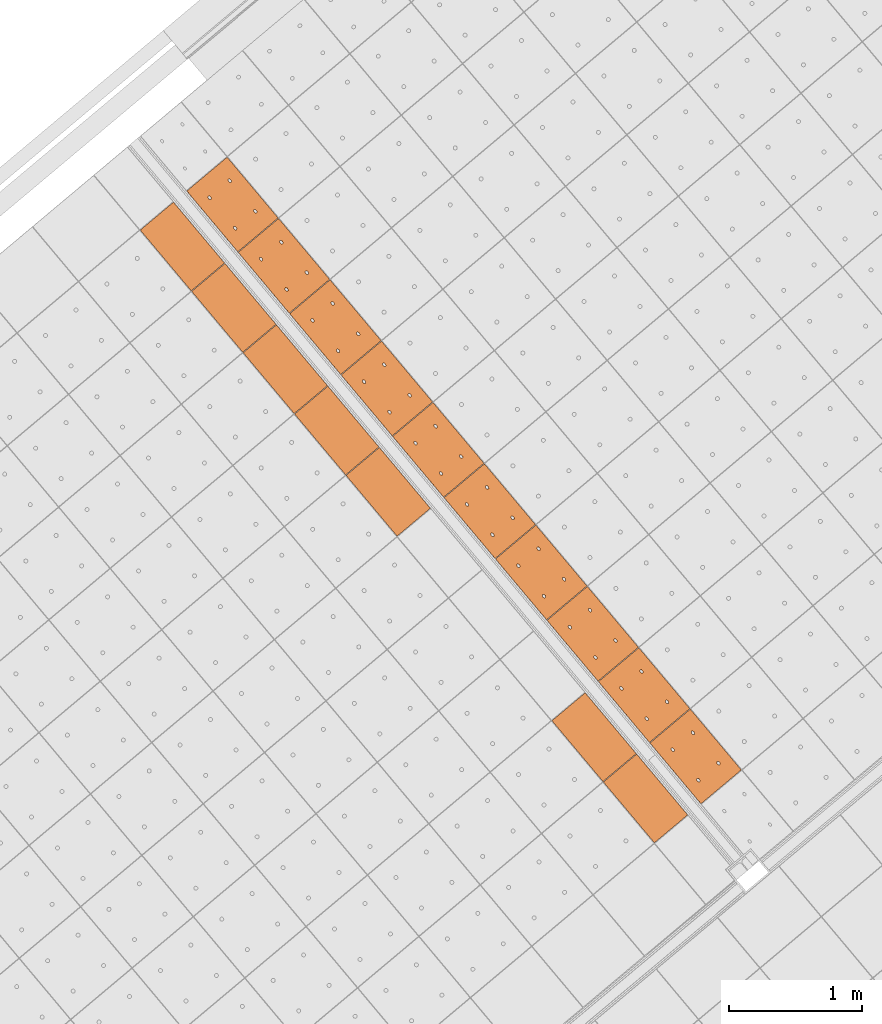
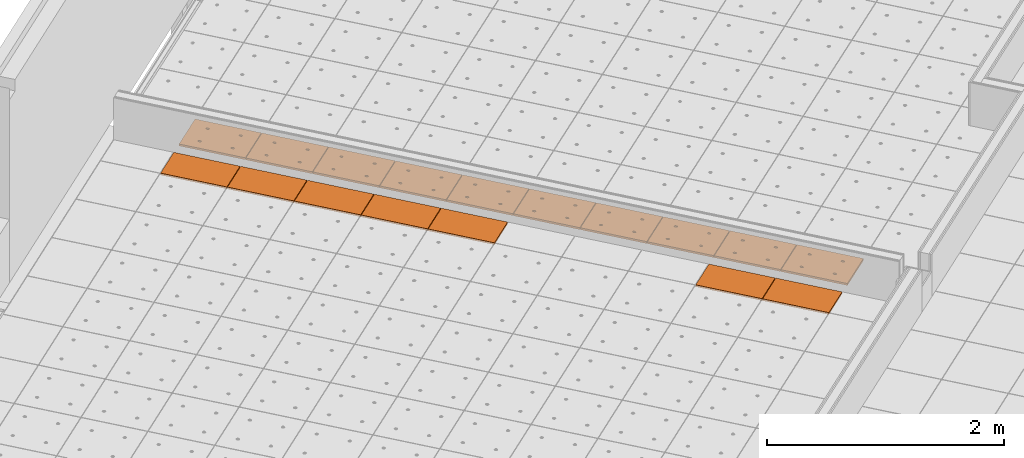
# One storey, part 200 of 338: 17 proxies, 2 elements without a shape of their own.
"""IFC2X3 building model written with IfcOpenShell, lengths in millimetres."""

from ifc_helpers import new_model, entity, si_unit, converted_unit, derived_unit, money_unit, direction, frame, origin_with_axes, place, context, subcontext, project, spatial, faceted_brep, source, transform, mapped, material, type_object, type_shapes, element, aggregate, save


model = new_model("IFC2X3")

# Units and contexts
model_context = context("Model", 3, precision=0.01, world=origin_with_axes(), true_north=direction((0.0, 1.0)))
plan_context = context("Plan", 3, precision=0.01, world=origin_with_axes(), true_north=direction((0.0, 1.0)))
body_context = subcontext(model_context, "Body", "Model", "MODEL_VIEW")
ifc_project = project(units=[si_unit("LENGTHUNIT", "METRE", prefix="MILLI"), si_unit("AREAUNIT", "SQUARE_METRE"), si_unit("VOLUMEUNIT", "CUBIC_METRE"), converted_unit("PLANEANGLEUNIT", "DEGREE", entity("IfcPlaneAngleMeasure", 0.0174532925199), si_unit("PLANEANGLEUNIT", "RADIAN"), dimensions=[0, 0, 0, 0, 0, 0, 0]), money_unit("EUR"), converted_unit("TIMEUNIT", "Year", entity("IfcTimeMeasure", 31556926.0), si_unit("TIMEUNIT", "SECOND"), dimensions=[0, 0, 1, 0, 0, 0, 0]), si_unit("MASSUNIT", "GRAM", prefix="KILO"), si_unit("THERMODYNAMICTEMPERATUREUNIT", "DEGREE_CELSIUS"), si_unit("LUMINOUSINTENSITYUNIT", "LUMEN"), si_unit("ENERGYUNIT", "JOULE", prefix="MEGA"), derived_unit("THERMALCONDUCTANCEUNIT", [(si_unit("POWERUNIT", "WATT"), 1), (si_unit("LENGTHUNIT", "METRE"), -1), (si_unit("THERMODYNAMICTEMPERATUREUNIT", "KELVIN"), -1)]), derived_unit("SPECIFICHEATCAPACITYUNIT", [(si_unit("ENERGYUNIT", "JOULE"), 1), (si_unit("MASSUNIT", "GRAM", prefix="KILO"), -1), (si_unit("THERMODYNAMICTEMPERATUREUNIT", "KELVIN"), -1)]), derived_unit("MASSDENSITYUNIT", [(si_unit("MASSUNIT", "GRAM", prefix="KILO"), 1), (si_unit("VOLUMEUNIT", "CUBIC_METRE"), -1)])], contexts=[model_context, plan_context])

# Site, building, storey
site_placement = place(None, origin_with_axes())
site = spatial("IfcSite", under=ifc_project, at=site_placement, Name="Fortuinstraat Woensdrecht", CompositionType="ELEMENT")
building_placement = place(site_placement, origin_with_axes())
building = spatial("IfcBuilding", under=site, at=building_placement, Name="IKC Fortuna", CompositionType="ELEMENT")
storey_placement = place(building_placement, origin_with_axes())
storey = spatial("IfcBuildingStorey", under=building, at=storey_placement, Name="00 begane grond", CompositionType="ELEMENT", Elevation=0.0)

# Covering, proxies
covering_type = type_object("IfcCoveringType", Name="Curtain Wall Type", PredefinedType="CEILING")
covering_1_placement = place(storey_placement, frame((9775.85169731, -1002.28242867, 4660.0), z_axis=(0.0, 0.0, 1.0), x_axis=(1.0, 0.0, 0.0)))
covering_1 = element("IfcCovering", 1, at=covering_1_placement, inside=storey, type_object=covering_type, Name="45_Plafondafwerking_P01", PredefinedType="CEILING")
ifc_material = material(Name="Gipsplaat")
building_element_proxy_type_1 = type_object("IfcBuildingElementProxyType", Name="330 x 600 x 20", PredefinedType="NOTDEFINED")
shared_shape_1 = source(origin_with_axes(), body_context, "Body", "Brep", [
    faceted_brep([(272.019603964, 2.49999411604, -10.0), (597.499999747, 2.50000859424, -10.0), (597.499999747, 2.50000859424, 10.0), (272.019603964, 2.49999411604, 10.0), (272.019596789, 597.499992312, -10.0), (597.499992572, 597.50000679, -10.0), (597.499992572, 597.50000679, 10.0), (272.019596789, 597.499992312, 10.0)], [[[0, 1, 2, 3]], [[0, 4, 5, 1]], [[1, 5, 6, 2]], [[3, 2, 6, 7]], [[4, 0, 3, 7]], [[5, 4, 7, 6]]]),
])
type_shapes(building_element_proxy_type_1, [shared_shape_1])
proxy_1_placement = place(covering_1_placement, frame((-29.2781042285, 758.677310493, 0.0), z_axis=(0.0, 0.0, 1.0), x_axis=(1.0, 0.0, 0.0)))
proxy_1 = element("IfcBuildingElementProxy", 2, at=proxy_1_placement, type_object=building_element_proxy_type_1, material=ifc_material, Name="__600x618 Rockfon Krios", context=body_context, shape_type="MappedRepresentation", body=[
    mapped(shared_shape_1, transform((140.208918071, 509.271582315, 0.0), x_axis=(-0.766044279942, -0.642787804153, 0.0), y_axis=(0.642787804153, -0.766044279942, 0.0), z_axis=(0.0, 0.0, 1.0))),
])
proxy_2_placement = place(covering_1_placement, frame((-2728.98688167, 3976.06328625, 0.0), z_axis=(0.0, 0.0, 1.0), x_axis=(1.0, 0.0, 0.0)))
proxy_2 = element("IfcBuildingElementProxy", 3, at=proxy_2_placement, type_object=building_element_proxy_type_1, material=ifc_material, Name="__600x623 Rockfon Krios", context=body_context, shape_type="MappedRepresentation", body=[
    mapped(shared_shape_1, transform((140.208918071, 509.271582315, 0.0), x_axis=(-0.766044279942, -0.642787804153, 0.0), y_axis=(0.642787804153, -0.766044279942, 0.0), z_axis=(0.0, 0.0, 1.0))),
])
proxy_3_placement = place(covering_1_placement, frame((-3500.33224665, 4895.31642218, 0.0), z_axis=(0.0, 0.0, 1.0), x_axis=(1.0, 0.0, 0.0)))
proxy_3 = element("IfcBuildingElementProxy", 4, at=proxy_3_placement, type_object=building_element_proxy_type_1, material=ifc_material, Name="__600x641 Rockfon Krios", context=body_context, shape_type="MappedRepresentation", body=[
    mapped(shared_shape_1, transform((140.208918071, 509.271582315, 0.0), x_axis=(-0.766044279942, -0.642787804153, 0.0), y_axis=(0.642787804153, -0.766044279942, 0.0), z_axis=(0.0, 0.0, 1.0))),
])
proxy_4_placement = place(covering_1_placement, frame((-3114.65956416, 4435.68985422, 0.0), z_axis=(0.0, 0.0, 1.0), x_axis=(1.0, 0.0, 0.0)))
proxy_4 = element("IfcBuildingElementProxy", 5, at=proxy_4_placement, type_object=building_element_proxy_type_1, material=ifc_material, Name="__600x645 Rockfon Krios", context=body_context, shape_type="MappedRepresentation", body=[
    mapped(shared_shape_1, transform((140.208918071, 509.271582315, 0.0), x_axis=(-0.766044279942, -0.642787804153, 0.0), y_axis=(0.642787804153, -0.766044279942, 0.0), z_axis=(0.0, 0.0, 1.0))),
])
proxy_5_placement = place(covering_1_placement, frame((-2343.31419918, 3516.43671828, 0.0), z_axis=(0.0, 0.0, 1.0), x_axis=(1.0, 0.0, 0.0)))
proxy_5 = element("IfcBuildingElementProxy", 6, at=proxy_5_placement, type_object=building_element_proxy_type_1, material=ifc_material, Name="__600x655 Rockfon Krios", context=body_context, shape_type="MappedRepresentation", body=[
    mapped(shared_shape_1, transform((140.208918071, 509.271582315, 0.0), x_axis=(-0.766044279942, -0.642787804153, 0.0), y_axis=(0.642787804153, -0.766044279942, 0.0), z_axis=(0.0, 0.0, 1.0))),
])
proxy_6_placement = place(covering_1_placement, frame((-1957.64151669, 3056.81015032, 0.0), z_axis=(0.0, 0.0, 1.0), x_axis=(1.0, 0.0, 0.0)))
proxy_6 = element("IfcBuildingElementProxy", 7, at=proxy_6_placement, type_object=building_element_proxy_type_1, material=ifc_material, Name="__600x687 Rockfon Krios", context=body_context, shape_type="MappedRepresentation", body=[
    mapped(shared_shape_1, transform((140.208918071, 509.271582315, 0.0), x_axis=(-0.766044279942, -0.642787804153, 0.0), y_axis=(0.642787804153, -0.766044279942, 0.0), z_axis=(0.0, 0.0, 1.0))),
])
proxy_7_placement = place(covering_1_placement, frame((-414.95078672, 1218.30387846, 0.0), z_axis=(0.0, 0.0, 1.0), x_axis=(1.0, 0.0, 0.0)))
proxy_7 = element("IfcBuildingElementProxy", 8, at=proxy_7_placement, type_object=building_element_proxy_type_1, material=ifc_material, Name="__600x735 Rockfon Krios", context=body_context, shape_type="MappedRepresentation", body=[
    mapped(shared_shape_1, transform((140.208918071, 509.271582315, 0.0), x_axis=(-0.766044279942, -0.642787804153, 0.0), y_axis=(0.642787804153, -0.766044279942, 0.0), z_axis=(0.0, 0.0, 1.0))),
])
aggregate(covering_1, [proxy_1, proxy_2, proxy_3, proxy_4, proxy_5, proxy_6, proxy_7])

covering_2_placement = place(storey_placement, frame((15863.124366, 4456.31398675, 4619.99995334), z_axis=(0.0, 0.0, 1.0), x_axis=(1.0, 0.0, 0.0)))
covering_2 = element("IfcCovering", 9, at=covering_2_placement, inside=storey, type_object=covering_type, Name="45_Plafondafwerking_P01", PredefinedType="CEILING")
building_element_proxy_type_2 = type_object("IfcBuildingElementProxyType", Name="Main Panel 400 x 600 x 20", PredefinedType="NOTDEFINED")
shared_shape_2 = source(origin_with_axes(), body_context, "Body", "Brep", [
    faceted_brep([(2.49999971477, 2.4999970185, -10.0), (199.885636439, 2.4999970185, -10.0), (199.885636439, 2.4999970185, 10.0), (2.49999971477, 2.4999970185, 10.0), (2.49999971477, 300.000000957, -10.0), (2.49999971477, 597.500004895, -10.0), (199.885636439, 597.500004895, -10.0), (397.271273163, 597.500004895, -10.0), (397.271273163, 300.000000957, -10.0), (397.271273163, 2.4999970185, -10.0), (111.145035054, 450.062332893, -10.0), (110.842641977, 452.647118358, -10.0), (110.247043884, 455.11349193, -10.0), (109.376337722, 457.38651412, -10.0), (108.256979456, 459.397120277, -10.0), (106.922980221, 461.084219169, -10.0), (105.414872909, 462.396549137, -10.0), (103.778480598, 463.294235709, -10.0), (102.063524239, 463.750003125, -10.0), (100.322111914, 463.750003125, -10.0), (98.6071555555, 463.294235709, -10.0), (96.9707632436, 462.396549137, -10.0), (95.4626559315, 461.084219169, -10.0), (94.1286566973, 459.397120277, -10.0), (93.0092984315, 457.38651412, -10.0), (92.138592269, 455.11349193, -10.0), (91.5429941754, 452.647118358, -10.0), (91.240601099, 450.062332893, -10.0), (91.240601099, 448.750002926, -10.0), (91.240601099, 447.437672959, -10.0), (91.5429941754, 444.852887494, -10.0), (92.138592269, 442.386513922, -10.0), (93.0092984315, 440.113491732, -10.0), (94.1286566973, 438.102885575, -10.0), (95.4626559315, 436.415786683, -10.0), (96.9707632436, 435.103456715, -10.0), (98.6071555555, 434.205770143, -10.0), (100.322111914, 433.750002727, -10.0), (102.063524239, 433.750002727, -10.0), (103.778480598, 434.205770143, -10.0), (105.414872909, 435.103456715, -10.0), (106.922980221, 436.415786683, -10.0), (108.256979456, 438.102885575, -10.0), (109.376337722, 440.113491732, -10.0), (110.247043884, 442.386513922, -10.0), (110.842641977, 444.852887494, -10.0), (111.145035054, 447.437672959, -10.0), (308.530671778, 450.062332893, -10.0), (308.228278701, 452.647118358, -10.0), (307.632680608, 455.11349193, -10.0), (306.761974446, 457.38651412, -10.0), (305.64261618, 459.397120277, -10.0), (304.308616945, 461.084219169, -10.0), (302.800509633, 462.396549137, -10.0), (301.164117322, 463.294235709, -10.0), (299.449160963, 463.750003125, -10.0), (297.707748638, 463.750003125, -10.0), (295.992792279, 463.294235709, -10.0), (294.356399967, 462.396549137, -10.0), (292.848292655, 461.084219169, -10.0), (291.514293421, 459.397120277, -10.0), (290.394935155, 457.38651412, -10.0), (289.524228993, 455.11349193, -10.0), (288.928630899, 452.647118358, -10.0), (288.626237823, 450.062332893, -10.0), (288.626237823, 448.750002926, -10.0), (288.626237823, 447.437672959, -10.0), (288.928630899, 444.852887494, -10.0), (289.524228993, 442.386513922, -10.0), (290.394935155, 440.113491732, -10.0), (291.514293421, 438.102885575, -10.0), (292.848292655, 436.415786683, -10.0), (294.356399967, 435.103456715, -10.0), (295.992792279, 434.205770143, -10.0), (297.707748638, 433.750002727, -10.0), (299.449160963, 433.750002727, -10.0), (301.164117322, 434.205770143, -10.0), (302.800509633, 435.103456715, -10.0), (304.308616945, 436.415786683, -10.0), (305.64261618, 438.102885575, -10.0), (306.761974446, 440.113491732, -10.0), (307.632680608, 442.386513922, -10.0), (308.228278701, 444.852887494, -10.0), (308.530671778, 447.437672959, -10.0), (308.530671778, 152.562328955, -10.0), (308.228278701, 155.147114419, -10.0), (307.632680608, 157.613487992, -10.0), (306.761974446, 159.886510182, -10.0), (305.64261618, 161.897116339, -10.0), (304.308616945, 163.584215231, -10.0), (302.800509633, 164.896545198, -10.0), (301.164117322, 165.79423177, -10.0), (299.449160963, 166.249999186, -10.0), (297.707748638, 166.249999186, -10.0), (295.992792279, 165.79423177, -10.0), (294.356399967, 164.896545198, -10.0), (292.848292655, 163.584215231, -10.0), (291.514293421, 161.897116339, -10.0), (290.394935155, 159.886510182, -10.0), (289.524228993, 157.613487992, -10.0), (288.928630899, 155.147114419, -10.0), (288.626237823, 152.562328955, -10.0), (288.626237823, 151.249998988, -10.0), (288.626237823, 149.93766902, -10.0), (288.928630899, 147.352883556, -10.0), (289.524228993, 144.886509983, -10.0), (290.394935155, 142.613487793, -10.0), (291.514293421, 140.602881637, -10.0), (292.848292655, 138.915782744, -10.0), (294.356399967, 137.603452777, -10.0), (295.992792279, 136.705766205, -10.0), (297.707748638, 136.249998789, -10.0), (299.449160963, 136.249998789, -10.0), (301.164117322, 136.705766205, -10.0), (302.800509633, 137.603452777, -10.0), (304.308616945, 138.915782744, -10.0), (305.64261618, 140.602881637, -10.0), (306.761974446, 142.613487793, -10.0), (307.632680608, 144.886509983, -10.0), (308.228278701, 147.352883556, -10.0), (308.530671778, 149.93766902, -10.0), (111.145035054, 152.562328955, -10.0), (110.842641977, 155.147114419, -10.0), (110.247043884, 157.613487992, -10.0), (109.376337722, 159.886510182, -10.0), (108.256979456, 161.897116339, -10.0), (106.922980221, 163.584215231, -10.0), (105.414872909, 164.896545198, -10.0), (103.778480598, 165.79423177, -10.0), (102.063524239, 166.249999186, -10.0), (100.322111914, 166.249999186, -10.0), (98.6071555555, 165.79423177, -10.0), (96.9707632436, 164.896545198, -10.0), (95.4626559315, 163.584215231, -10.0), (94.1286566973, 161.897116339, -10.0), (93.0092984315, 159.886510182, -10.0), (92.138592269, 157.613487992, -10.0), (91.5429941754, 155.147114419, -10.0), (91.240601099, 152.562328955, -10.0), (91.240601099, 151.249998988, -10.0), (91.240601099, 149.93766902, -10.0), (91.5429941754, 147.352883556, -10.0), (92.138592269, 144.886509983, -10.0), (93.0092984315, 142.613487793, -10.0), (94.1286566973, 140.602881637, -10.0), (95.4626559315, 138.915782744, -10.0), (96.9707632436, 137.603452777, -10.0), (98.6071555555, 136.705766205, -10.0), (100.322111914, 136.249998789, -10.0), (102.063524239, 136.249998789, -10.0), (103.778480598, 136.705766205, -10.0), (105.414872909, 137.603452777, -10.0), (106.922980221, 138.915782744, -10.0), (108.256979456, 140.602881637, -10.0), (109.376337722, 142.613487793, -10.0), (110.247043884, 144.886509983, -10.0), (110.842641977, 147.352883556, -10.0), (111.145035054, 149.93766902, -10.0), (397.271273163, 2.4999970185, 10.0), (397.271273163, 300.000000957, 10.0), (397.271273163, 597.500004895, 10.0), (199.885636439, 597.500004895, 10.0), (2.49999971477, 597.500004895, 10.0), (2.49999971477, 300.000000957, 10.0), (111.145035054, 450.062332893, 10.0), (111.145035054, 447.437672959, 10.0), (110.842641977, 444.852887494, 10.0), (110.247043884, 442.386513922, 10.0), (109.376337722, 440.113491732, 10.0), (108.256979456, 438.102885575, 10.0), (106.922980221, 436.415786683, 10.0), (105.414872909, 435.103456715, 10.0), (103.778480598, 434.205770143, 10.0), (102.063524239, 433.750002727, 10.0), (100.322111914, 433.750002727, 10.0), (98.6071555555, 434.205770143, 10.0), (96.9707632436, 435.103456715, 10.0), (95.4626559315, 436.415786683, 10.0), (94.1286566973, 438.102885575, 10.0), (93.0092984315, 440.113491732, 10.0), (92.138592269, 442.386513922, 10.0), (91.5429941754, 444.852887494, 10.0), (91.240601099, 447.437672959, 10.0), (91.240601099, 448.750002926, 10.0), (91.240601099, 450.062332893, 10.0), (91.5429941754, 452.647118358, 10.0), (92.138592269, 455.11349193, 10.0), (93.0092984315, 457.38651412, 10.0), (94.1286566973, 459.397120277, 10.0), (95.4626559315, 461.084219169, 10.0), (96.9707632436, 462.396549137, 10.0), (98.6071555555, 463.294235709, 10.0), (100.322111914, 463.750003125, 10.0), (102.063524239, 463.750003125, 10.0), (103.778480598, 463.294235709, 10.0), (105.414872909, 462.396549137, 10.0), (106.922980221, 461.084219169, 10.0), (108.256979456, 459.397120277, 10.0), (109.376337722, 457.38651412, 10.0), (110.247043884, 455.11349193, 10.0), (110.842641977, 452.647118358, 10.0), (308.530671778, 450.062332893, 10.0), (308.530671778, 447.437672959, 10.0), (308.228278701, 444.852887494, 10.0), (307.632680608, 442.386513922, 10.0), (306.761974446, 440.113491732, 10.0), (305.64261618, 438.102885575, 10.0), (304.308616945, 436.415786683, 10.0), (302.800509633, 435.103456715, 10.0), (301.164117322, 434.205770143, 10.0), (299.449160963, 433.750002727, 10.0), (297.707748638, 433.750002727, 10.0), (295.992792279, 434.205770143, 10.0), (294.356399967, 435.103456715, 10.0), (292.848292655, 436.415786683, 10.0), (291.514293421, 438.102885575, 10.0), (290.394935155, 440.113491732, 10.0), (289.524228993, 442.386513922, 10.0), (288.928630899, 444.852887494, 10.0), (288.626237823, 447.437672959, 10.0), (288.626237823, 448.750002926, 10.0), (288.626237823, 450.062332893, 10.0), (288.928630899, 452.647118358, 10.0), (289.524228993, 455.11349193, 10.0), (290.394935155, 457.38651412, 10.0), (291.514293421, 459.397120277, 10.0), (292.848292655, 461.084219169, 10.0), (294.356399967, 462.396549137, 10.0), (295.992792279, 463.294235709, 10.0), (297.707748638, 463.750003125, 10.0), (299.449160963, 463.750003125, 10.0), (301.164117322, 463.294235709, 10.0), (302.800509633, 462.396549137, 10.0), (304.308616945, 461.084219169, 10.0), (305.64261618, 459.397120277, 10.0), (306.761974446, 457.38651412, 10.0), (307.632680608, 455.11349193, 10.0), (308.228278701, 452.647118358, 10.0), (308.530671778, 152.562328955, 10.0), (308.530671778, 149.93766902, 10.0), (308.228278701, 147.352883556, 10.0), (307.632680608, 144.886509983, 10.0), (306.761974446, 142.613487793, 10.0), (305.64261618, 140.602881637, 10.0), (304.308616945, 138.915782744, 10.0), (302.800509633, 137.603452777, 10.0), (301.164117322, 136.705766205, 10.0), (299.449160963, 136.249998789, 10.0), (297.707748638, 136.249998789, 10.0), (295.992792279, 136.705766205, 10.0), (294.356399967, 137.603452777, 10.0), (292.848292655, 138.915782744, 10.0), (291.514293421, 140.602881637, 10.0), (290.394935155, 142.613487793, 10.0), (289.524228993, 144.886509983, 10.0), (288.928630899, 147.352883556, 10.0), (288.626237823, 149.93766902, 10.0), (288.626237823, 151.249998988, 10.0), (288.626237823, 152.562328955, 10.0), (288.928630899, 155.147114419, 10.0), (289.524228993, 157.613487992, 10.0), (290.394935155, 159.886510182, 10.0), (291.514293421, 161.897116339, 10.0), (292.848292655, 163.584215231, 10.0), (294.356399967, 164.896545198, 10.0), (295.992792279, 165.79423177, 10.0), (297.707748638, 166.249999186, 10.0), (299.449160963, 166.249999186, 10.0), (301.164117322, 165.79423177, 10.0), (302.800509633, 164.896545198, 10.0), (304.308616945, 163.584215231, 10.0), (305.64261618, 161.897116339, 10.0), (306.761974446, 159.886510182, 10.0), (307.632680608, 157.613487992, 10.0), (308.228278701, 155.147114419, 10.0), (111.145035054, 152.562328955, 10.0), (111.145035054, 149.93766902, 10.0), (110.842641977, 147.352883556, 10.0), (110.247043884, 144.886509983, 10.0), (109.376337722, 142.613487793, 10.0), (108.256979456, 140.602881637, 10.0), (106.922980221, 138.915782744, 10.0), (105.414872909, 137.603452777, 10.0), (103.778480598, 136.705766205, 10.0), (102.063524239, 136.249998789, 10.0), (100.322111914, 136.249998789, 10.0), (98.6071555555, 136.705766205, 10.0), (96.9707632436, 137.603452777, 10.0), (95.4626559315, 138.915782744, 10.0), (94.1286566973, 140.602881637, 10.0), (93.0092984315, 142.613487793, 10.0), (92.138592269, 144.886509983, 10.0), (91.5429941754, 147.352883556, 10.0), (91.240601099, 149.93766902, 10.0), (91.240601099, 151.249998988, 10.0), (91.240601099, 152.562328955, 10.0), (91.5429941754, 155.147114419, 10.0), (92.138592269, 157.613487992, 10.0), (93.0092984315, 159.886510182, 10.0), (94.1286566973, 161.897116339, 10.0), (95.4626559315, 163.584215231, 10.0), (96.9707632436, 164.896545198, 10.0), (98.6071555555, 165.79423177, 10.0), (100.322111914, 166.249999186, 10.0), (102.063524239, 166.249999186, 10.0), (103.778480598, 165.79423177, 10.0), (105.414872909, 164.896545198, 10.0), (106.922980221, 163.584215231, 10.0), (108.256979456, 161.897116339, 10.0), (109.376337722, 159.886510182, 10.0), (110.247043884, 157.613487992, 10.0), (110.842641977, 155.147114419, 10.0)], [[[0, 1, 2, 3]], [[0, 4, 5, 6, 7, 8, 9, 1], [10, 11, 12, 13, 14, 15, 16, 17, 18, 19, 20, 21, 22, 23, 24, 25, 26, 27, 28, 29, 30, 31, 32, 33, 34, 35, 36, 37, 38, 39, 40, 41, 42, 43, 44, 45, 46], [47, 48, 49, 50, 51, 52, 53, 54, 55, 56, 57, 58, 59, 60, 61, 62, 63, 64, 65, 66, 67, 68, 69, 70, 71, 72, 73, 74, 75, 76, 77, 78, 79, 80, 81, 82, 83], [84, 85, 86, 87, 88, 89, 90, 91, 92, 93, 94, 95, 96, 97, 98, 99, 100, 101, 102, 103, 104, 105, 106, 107, 108, 109, 110, 111, 112, 113, 114, 115, 116, 117, 118, 119, 120], [121, 122, 123, 124, 125, 126, 127, 128, 129, 130, 131, 132, 133, 134, 135, 136, 137, 138, 139, 140, 141, 142, 143, 144, 145, 146, 147, 148, 149, 150, 151, 152, 153, 154, 155, 156, 157]], [[1, 9, 158, 2]], [[3, 2, 158, 159, 160, 161, 162, 163], [164, 165, 166, 167, 168, 169, 170, 171, 172, 173, 174, 175, 176, 177, 178, 179, 180, 181, 182, 183, 184, 185, 186, 187, 188, 189, 190, 191, 192, 193, 194, 195, 196, 197, 198, 199, 200], [201, 202, 203, 204, 205, 206, 207, 208, 209, 210, 211, 212, 213, 214, 215, 216, 217, 218, 219, 220, 221, 222, 223, 224, 225, 226, 227, 228, 229, 230, 231, 232, 233, 234, 235, 236, 237], [238, 239, 240, 241, 242, 243, 244, 245, 246, 247, 248, 249, 250, 251, 252, 253, 254, 255, 256, 257, 258, 259, 260, 261, 262, 263, 264, 265, 266, 267, 268, 269, 270, 271, 272, 273, 274], [275, 276, 277, 278, 279, 280, 281, 282, 283, 284, 285, 286, 287, 288, 289, 290, 291, 292, 293, 294, 295, 296, 297, 298, 299, 300, 301, 302, 303, 304, 305, 306, 307, 308, 309, 310, 311]], [[4, 0, 3, 163]], [[5, 4, 163, 162]], [[6, 5, 162, 161]], [[7, 6, 161, 160]], [[8, 7, 160, 159]], [[9, 8, 159, 158]], [[11, 10, 164, 200]], [[12, 11, 200, 199]], [[13, 12, 199, 198]], [[14, 13, 198, 197]], [[15, 14, 197, 196]], [[16, 15, 196, 195]], [[17, 16, 195, 194]], [[18, 17, 194, 193]], [[19, 18, 193, 192]], [[20, 19, 192, 191]], [[21, 20, 191, 190]], [[22, 21, 190, 189]], [[23, 22, 189, 188]], [[24, 23, 188, 187]], [[25, 24, 187, 186]], [[26, 25, 186, 185]], [[27, 26, 185, 184]], [[28, 27, 184, 183]], [[29, 28, 183, 182]], [[30, 29, 182, 181]], [[31, 30, 181, 180]], [[32, 31, 180, 179]], [[33, 32, 179, 178]], [[34, 33, 178, 177]], [[35, 34, 177, 176]], [[36, 35, 176, 175]], [[37, 36, 175, 174]], [[38, 37, 174, 173]], [[39, 38, 173, 172]], [[40, 39, 172, 171]], [[41, 40, 171, 170]], [[42, 41, 170, 169]], [[43, 42, 169, 168]], [[44, 43, 168, 167]], [[45, 44, 167, 166]], [[46, 45, 166, 165]], [[10, 46, 165, 164]], [[48, 47, 201, 237]], [[49, 48, 237, 236]], [[50, 49, 236, 235]], [[51, 50, 235, 234]], [[52, 51, 234, 233]], [[53, 52, 233, 232]], [[54, 53, 232, 231]], [[55, 54, 231, 230]], [[56, 55, 230, 229]], [[57, 56, 229, 228]], [[58, 57, 228, 227]], [[59, 58, 227, 226]], [[60, 59, 226, 225]], [[61, 60, 225, 224]], [[62, 61, 224, 223]], [[63, 62, 223, 222]], [[64, 63, 222, 221]], [[65, 64, 221, 220]], [[66, 65, 220, 219]], [[67, 66, 219, 218]], [[68, 67, 218, 217]], [[69, 68, 217, 216]], [[70, 69, 216, 215]], [[71, 70, 215, 214]], [[72, 71, 214, 213]], [[73, 72, 213, 212]], [[74, 73, 212, 211]], [[75, 74, 211, 210]], [[76, 75, 210, 209]], [[77, 76, 209, 208]], [[78, 77, 208, 207]], [[79, 78, 207, 206]], [[80, 79, 206, 205]], [[81, 80, 205, 204]], [[82, 81, 204, 203]], [[83, 82, 203, 202]], [[47, 83, 202, 201]], [[85, 84, 238, 274]], [[86, 85, 274, 273]], [[87, 86, 273, 272]], [[88, 87, 272, 271]], [[89, 88, 271, 270]], [[90, 89, 270, 269]], [[91, 90, 269, 268]], [[92, 91, 268, 267]], [[93, 92, 267, 266]], [[94, 93, 266, 265]], [[95, 94, 265, 264]], [[96, 95, 264, 263]], [[97, 96, 263, 262]], [[98, 97, 262, 261]], [[99, 98, 261, 260]], [[100, 99, 260, 259]], [[101, 100, 259, 258]], [[102, 101, 258, 257]], [[103, 102, 257, 256]], [[104, 103, 256, 255]], [[105, 104, 255, 254]], [[106, 105, 254, 253]], [[107, 106, 253, 252]], [[108, 107, 252, 251]], [[109, 108, 251, 250]], [[110, 109, 250, 249]], [[111, 110, 249, 248]], [[112, 111, 248, 247]], [[113, 112, 247, 246]], [[114, 113, 246, 245]], [[115, 114, 245, 244]], [[116, 115, 244, 243]], [[117, 116, 243, 242]], [[118, 117, 242, 241]], [[119, 118, 241, 240]], [[120, 119, 240, 239]], [[84, 120, 239, 238]], [[122, 121, 275, 311]], [[123, 122, 311, 310]], [[124, 123, 310, 309]], [[125, 124, 309, 308]], [[126, 125, 308, 307]], [[127, 126, 307, 306]], [[128, 127, 306, 305]], [[129, 128, 305, 304]], [[130, 129, 304, 303]], [[131, 130, 303, 302]], [[132, 131, 302, 301]], [[133, 132, 301, 300]], [[134, 133, 300, 299]], [[135, 134, 299, 298]], [[136, 135, 298, 297]], [[137, 136, 297, 296]], [[138, 137, 296, 295]], [[139, 138, 295, 294]], [[140, 139, 294, 293]], [[141, 140, 293, 292]], [[142, 141, 292, 291]], [[143, 142, 291, 290]], [[144, 143, 290, 289]], [[145, 144, 289, 288]], [[146, 145, 288, 287]], [[147, 146, 287, 286]], [[148, 147, 286, 285]], [[149, 148, 285, 284]], [[150, 149, 284, 283]], [[151, 150, 283, 282]], [[152, 151, 282, 281]], [[153, 152, 281, 280]], [[154, 153, 280, 279]], [[155, 154, 279, 278]], [[156, 155, 278, 277]], [[157, 156, 277, 276]], [[121, 157, 276, 275]]]),
])
type_shapes(building_element_proxy_type_2, [shared_shape_2])
proxy_8_placement = place(covering_2_placement, frame((-9212.148492, -248.238137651, 38.9196635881), z_axis=(0.0, 0.0, 1.0), x_axis=(0.642787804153, -0.766044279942, 0.0)))
proxy_8 = element("IfcBuildingElementProxy", 10, at=proxy_8_placement, type_object=building_element_proxy_type_2, material=ifc_material, Name="__600x956 Rockfon Krios", context=body_context, shape_type="MappedRepresentation", body=[
    mapped(shared_shape_2, transform((-300.0, 199.882712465, -1.08038213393), x_axis=(0.0, -0.999985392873, 0.00540500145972), y_axis=(1.0, 0.0, 0.0), z_axis=(0.0, 0.00540500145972, 0.999985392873))),
])
proxy_9_placement = place(covering_2_placement, frame((-8826.47580951, -707.864705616, 38.9196635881), z_axis=(0.0, 0.0, 1.0), x_axis=(0.642787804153, -0.766044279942, 0.0)))
proxy_9 = element("IfcBuildingElementProxy", 11, at=proxy_9_placement, type_object=building_element_proxy_type_2, material=ifc_material, Name="__600x969 Rockfon Krios", context=body_context, shape_type="MappedRepresentation", body=[
    mapped(shared_shape_2, transform((-300.0, 199.882712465, -1.08038213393), x_axis=(0.0, -0.999985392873, 0.00540500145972), y_axis=(1.0, 0.0, 0.0), z_axis=(0.0, 0.00540500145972, 0.999985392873))),
])
proxy_10_placement = place(covering_2_placement, frame((-8440.80314871, -1167.49129178, 38.9196637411), z_axis=(0.0, 0.0, 1.0), x_axis=(0.642787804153, -0.766044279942, 0.0)))
proxy_10 = element("IfcBuildingElementProxy", 12, at=proxy_10_placement, type_object=building_element_proxy_type_2, material=ifc_material, Name="__600x982 Rockfon Krios", context=body_context, shape_type="MappedRepresentation", body=[
    mapped(shared_shape_2, transform((-300.0, 199.88274078, -1.08038228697), x_axis=(0.0, -0.999985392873, 0.00540500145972), y_axis=(1.0, 0.0, 0.0), z_axis=(0.0, 0.00540500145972, 0.999985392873))),
])
proxy_11_placement = place(covering_2_placement, frame((-8055.1304879, -1627.11787795, 38.9196638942), z_axis=(0.0, 0.0, 1.0), x_axis=(0.642787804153, -0.766044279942, 0.0)))
proxy_11 = element("IfcBuildingElementProxy", 13, at=proxy_11_placement, type_object=building_element_proxy_type_2, material=ifc_material, Name="__600x995 Rockfon Krios", context=body_context, shape_type="MappedRepresentation", body=[
    mapped(shared_shape_2, transform((-300.0, 199.882769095, -1.08038244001), x_axis=(0.0, -0.999985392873, 0.00540500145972), y_axis=(1.0, 0.0, 0.0), z_axis=(0.0, 0.00540500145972, 0.999985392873))),
])
proxy_12_placement = place(covering_2_placement, frame((-7669.45780541, -2086.74444591, 38.9196638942), z_axis=(0.0, 0.0, 1.0), x_axis=(0.642787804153, -0.766044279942, 0.0)))
proxy_12 = element("IfcBuildingElementProxy", 14, at=proxy_12_placement, type_object=building_element_proxy_type_2, material=ifc_material, Name="__600x008 Rockfon Krios", context=body_context, shape_type="MappedRepresentation", body=[
    mapped(shared_shape_2, transform((-300.0, 199.882769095, -1.08038244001), x_axis=(0.0, -0.999985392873, 0.00540500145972), y_axis=(1.0, 0.0, 0.0), z_axis=(0.0, 0.00540500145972, 0.999985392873))),
])
proxy_13_placement = place(covering_2_placement, frame((-7283.78512292, -2546.37101388, 38.9196638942), z_axis=(0.0, 0.0, 1.0), x_axis=(0.642787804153, -0.766044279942, 0.0)))
proxy_13 = element("IfcBuildingElementProxy", 15, at=proxy_13_placement, type_object=building_element_proxy_type_2, material=ifc_material, Name="__600x021 Rockfon Krios", context=body_context, shape_type="MappedRepresentation", body=[
    mapped(shared_shape_2, transform((-300.0, 199.882769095, -1.08038244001), x_axis=(0.0, -0.999985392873, 0.00540500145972), y_axis=(1.0, 0.0, 0.0), z_axis=(0.0, 0.00540500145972, 0.999985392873))),
])
proxy_14_placement = place(covering_2_placement, frame((-6898.11244043, -3005.99758184, 38.9196638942), z_axis=(0.0, 0.0, 1.0), x_axis=(0.642787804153, -0.766044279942, 0.0)))
proxy_14 = element("IfcBuildingElementProxy", 16, at=proxy_14_placement, type_object=building_element_proxy_type_2, material=ifc_material, Name="__600x034 Rockfon Krios", context=body_context, shape_type="MappedRepresentation", body=[
    mapped(shared_shape_2, transform((-300.0, 199.882769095, -1.08038244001), x_axis=(0.0, -0.999985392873, 0.00540500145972), y_axis=(1.0, 0.0, 0.0), z_axis=(0.0, 0.00540500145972, 0.999985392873))),
])
proxy_15_placement = place(covering_2_placement, frame((-6512.43977963, -3465.62416801, 38.9196640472), z_axis=(0.0, 0.0, 1.0), x_axis=(0.642787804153, -0.766044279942, 0.0)))
proxy_15 = element("IfcBuildingElementProxy", 17, at=proxy_15_placement, type_object=building_element_proxy_type_2, material=ifc_material, Name="__600x047 Rockfon Krios", context=body_context, shape_type="MappedRepresentation", body=[
    mapped(shared_shape_2, transform((-300.0, 199.882797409, -1.08038259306), x_axis=(0.0, -0.999985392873, 0.00540500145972), y_axis=(1.0, 0.0, 0.0), z_axis=(0.0, 0.00540500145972, 0.999985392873))),
])
proxy_16_placement = place(covering_2_placement, frame((-6126.76711883, -3925.25075418, 38.9196642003), z_axis=(0.0, 0.0, 1.0), x_axis=(0.642787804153, -0.766044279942, 0.0)))
proxy_16 = element("IfcBuildingElementProxy", 18, at=proxy_16_placement, type_object=building_element_proxy_type_2, material=ifc_material, Name="__600x060 Rockfon Krios", context=body_context, shape_type="MappedRepresentation", body=[
    mapped(shared_shape_2, transform((-300.0, 199.882825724, -1.0803827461), x_axis=(0.0, -0.999985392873, 0.00540500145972), y_axis=(1.0, 0.0, 0.0), z_axis=(0.0, 0.00540500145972, 0.999985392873))),
])
proxy_17_placement = place(covering_2_placement, frame((-5741.09443633, -4384.87732214, 38.9196642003), z_axis=(0.0, 0.0, 1.0), x_axis=(0.642787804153, -0.766044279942, 0.0)))
proxy_17 = element("IfcBuildingElementProxy", 19, at=proxy_17_placement, type_object=building_element_proxy_type_2, material=ifc_material, Name="__600x073 Rockfon Krios", context=body_context, shape_type="MappedRepresentation", body=[
    mapped(shared_shape_2, transform((-300.0, 199.882825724, -1.0803827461), x_axis=(0.0, -0.999985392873, 0.00540500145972), y_axis=(1.0, 0.0, 0.0), z_axis=(0.0, 0.00540500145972, 0.999985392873))),
])
aggregate(covering_2, [proxy_8, proxy_9, proxy_10, proxy_11, proxy_12, proxy_13, proxy_14, proxy_15, proxy_16, proxy_17])

save(model, "model.ifc")
